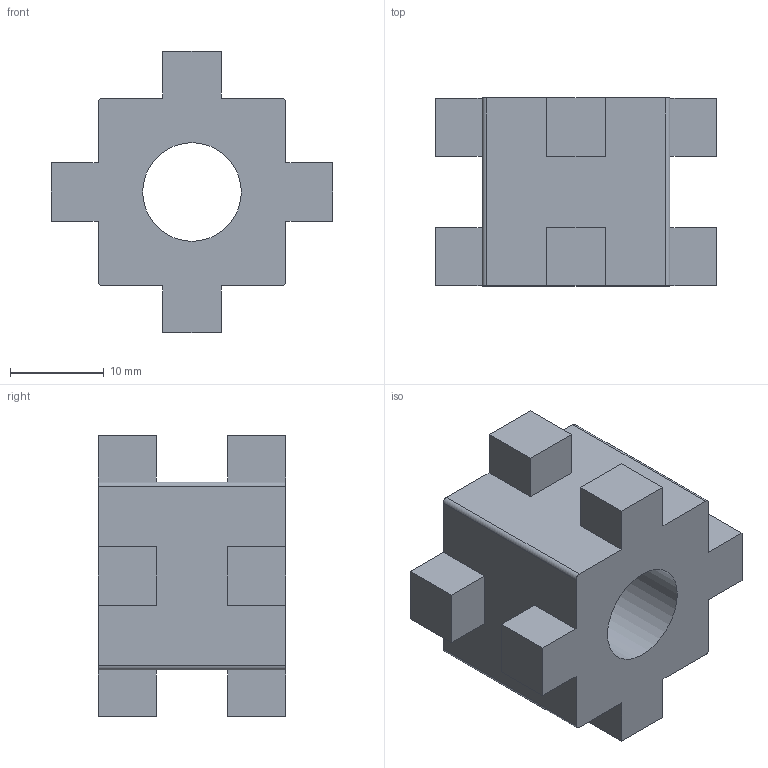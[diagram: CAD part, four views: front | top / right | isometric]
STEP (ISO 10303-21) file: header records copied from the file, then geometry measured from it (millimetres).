
FILE_DESCRIPTION(/* description */ ('','CAx-IF Rec.Pracs.---Representation and Presentation of Product Manufacturing Information (PMI)---4.0---2014-10-13'),/* implementation_level */ '2;1');
FILE_NAME(/* name */ 'tappo6.stp',/* time_stamp */ '2026-03-01T09:54:23+01:00',/* author */ ('R5800u'),/* organization */ (''),/* preprocessor_version */ 'ST-DEVELOPER v20',/* originating_system */ 'Autodesk Inventor 2025',/* authorisation */ '');
FILE_SCHEMA (('AP242_MANAGED_MODEL_BASED_3D_ENGINEERING_MIM_LF { 1 0 10303 442 1 1 4 }'));
Length unit declared in the file: millimetre
Products named in the file (1): tappo6
Bounding box: 30 x 20 x 30 mm (x, y, z)
Volume: 7801.5 mm3; surface area: 3861 mm2
Topology: 1 solids, 1 shells, 43 faces, 123 edges, 82 vertices
Faces by surface type: plane 38, cylinder 5
Full cylindrical faces by diameter (mm): 10.5 x1
Entity records: 1599 total; most frequent: CARTESIAN_POINT 292, DIRECTION 247, ORIENTED_EDGE 246, EDGE_CURVE 123, LINE 113, VECTOR 113, VERTEX_POINT 82, AXIS2_PLACEMENT_3D 67
